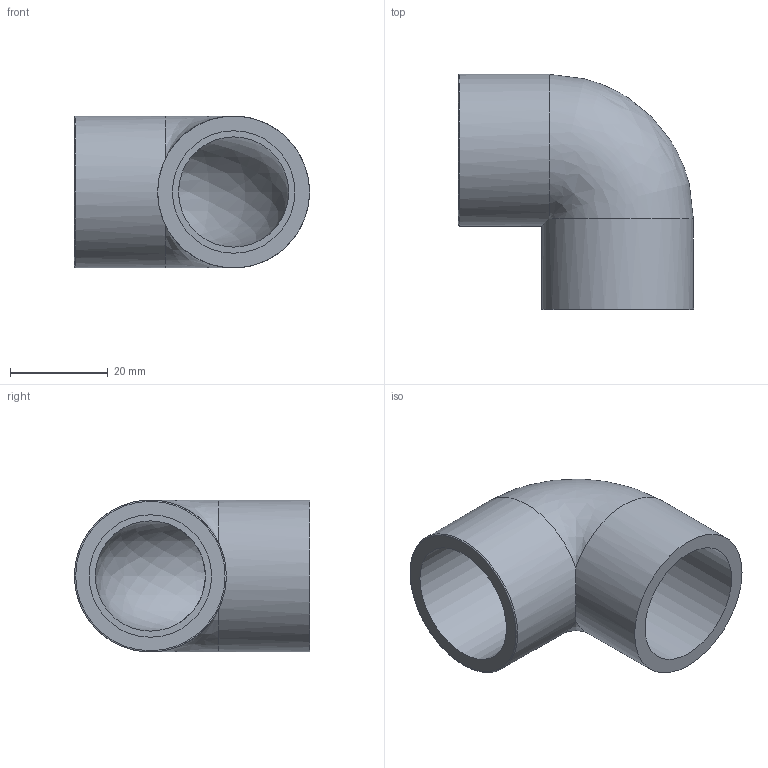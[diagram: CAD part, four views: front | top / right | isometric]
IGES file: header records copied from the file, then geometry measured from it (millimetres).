
Global section: file name: 050500025.ipt; native system: Autodesk Inventor 2015; preprocessor: unknown; author: KIM; date: 20171207.164609; units: millimetre
Bounding box: 48 x 48 x 31 mm (x, y, z)
Volume: 17642.1 mm3; surface area: 10930.6 mm2
Topology: 1 solids, 1 shells, 11 faces, 26 edges, 17 vertices
Faces by surface type: revolution 4, plane 4, cylinder 2, bspline 1
Full cylindrical faces by diameter (mm): 31 x2
